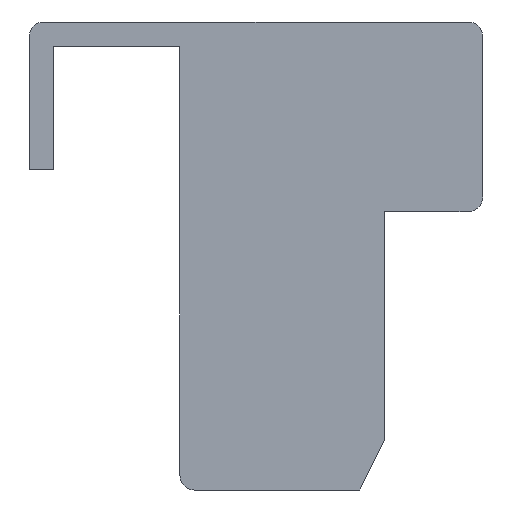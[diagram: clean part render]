
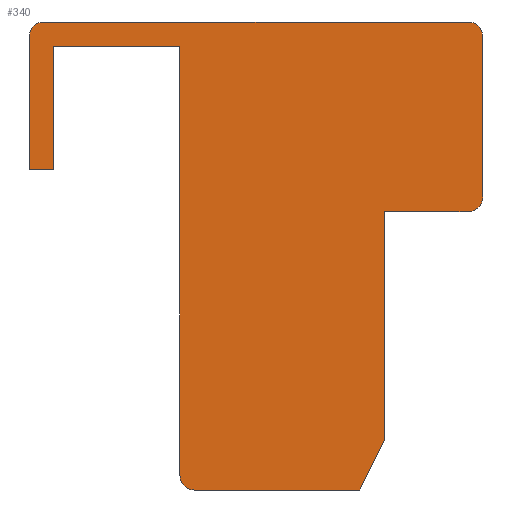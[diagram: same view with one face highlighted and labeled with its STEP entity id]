
A CAD part, left-side view. The second image highlights one B-rep face of the part: STEP entity #340.
In plain terms, the highlighted planar face has unit normal (-1, 0, 0).
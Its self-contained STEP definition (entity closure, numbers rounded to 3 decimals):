
#18=PLANE('',#377);
#34=FACE_OUTER_BOUND('',#53,.T.);
#53=EDGE_LOOP('',(#248,#249,#250,#251,#252,#253,#254,#255,#256,#257,#258,
#259,#260,#261,#262));
#74=LINE('',#518,#112);
#75=LINE('',#521,#113);
#76=LINE('',#523,#114);
#77=LINE('',#525,#115);
#78=LINE('',#529,#116);
#79=LINE('',#533,#117);
#80=LINE('',#537,#118);
#81=LINE('',#539,#119);
#82=LINE('',#541,#120);
#83=LINE('',#543,#121);
#84=LINE('',#544,#122);
#112=VECTOR('',#421,10.);
#113=VECTOR('',#424,10.);
#114=VECTOR('',#425,10.);
#115=VECTOR('',#426,10.);
#116=VECTOR('',#429,10.);
#117=VECTOR('',#432,10.);
#118=VECTOR('',#435,10.);
#119=VECTOR('',#436,10.);
#120=VECTOR('',#437,10.);
#121=VECTOR('',#438,10.);
#122=VECTOR('',#439,10.);
#148=CIRCLE('',#375,3.);
#149=CIRCLE('',#378,3.);
#150=CIRCLE('',#379,3.);
#151=CIRCLE('',#380,3.);
#159=VERTEX_POINT('',#508);
#160=VERTEX_POINT('',#510);
#162=VERTEX_POINT('',#516);
#163=VERTEX_POINT('',#520);
#164=VERTEX_POINT('',#522);
#165=VERTEX_POINT('',#524);
#166=VERTEX_POINT('',#526);
#167=VERTEX_POINT('',#528);
#168=VERTEX_POINT('',#530);
#169=VERTEX_POINT('',#532);
#170=VERTEX_POINT('',#534);
#171=VERTEX_POINT('',#536);
#172=VERTEX_POINT('',#538);
#173=VERTEX_POINT('',#540);
#174=VERTEX_POINT('',#542);
#192=EDGE_CURVE('',#160,#159,#148,.T.);
#196=EDGE_CURVE('',#159,#162,#74,.T.);
#197=EDGE_CURVE('',#162,#163,#75,.T.);
#198=EDGE_CURVE('',#163,#164,#76,.T.);
#199=EDGE_CURVE('',#164,#165,#77,.T.);
#200=EDGE_CURVE('',#165,#166,#149,.T.);
#201=EDGE_CURVE('',#167,#166,#78,.T.);
#202=EDGE_CURVE('',#167,#168,#150,.T.);
#203=EDGE_CURVE('',#169,#168,#79,.T.);
#204=EDGE_CURVE('',#169,#170,#151,.T.);
#205=EDGE_CURVE('',#170,#171,#80,.T.);
#206=EDGE_CURVE('',#171,#172,#81,.T.);
#207=EDGE_CURVE('',#173,#172,#82,.T.);
#208=EDGE_CURVE('',#174,#173,#83,.T.);
#209=EDGE_CURVE('',#174,#160,#84,.T.);
#248=ORIENTED_EDGE('',*,*,#192,.T.);
#249=ORIENTED_EDGE('',*,*,#196,.T.);
#250=ORIENTED_EDGE('',*,*,#197,.T.);
#251=ORIENTED_EDGE('',*,*,#198,.T.);
#252=ORIENTED_EDGE('',*,*,#199,.T.);
#253=ORIENTED_EDGE('',*,*,#200,.T.);
#254=ORIENTED_EDGE('',*,*,#201,.F.);
#255=ORIENTED_EDGE('',*,*,#202,.T.);
#256=ORIENTED_EDGE('',*,*,#203,.F.);
#257=ORIENTED_EDGE('',*,*,#204,.T.);
#258=ORIENTED_EDGE('',*,*,#205,.T.);
#259=ORIENTED_EDGE('',*,*,#206,.T.);
#260=ORIENTED_EDGE('',*,*,#207,.F.);
#261=ORIENTED_EDGE('',*,*,#208,.F.);
#262=ORIENTED_EDGE('',*,*,#209,.T.);
#340=ADVANCED_FACE('',(#34),#18,.F.);
#375=AXIS2_PLACEMENT_3D('',#511,#414,#415);
#377=AXIS2_PLACEMENT_3D('',#519,#422,#423);
#378=AXIS2_PLACEMENT_3D('',#527,#427,#428);
#379=AXIS2_PLACEMENT_3D('',#531,#430,#431);
#380=AXIS2_PLACEMENT_3D('',#535,#433,#434);
#414=DIRECTION('center_axis',(-1.,0.,0.));
#415=DIRECTION('ref_axis',(0.,0.707,-0.707));
#421=DIRECTION('',(0.,-1.,0.));
#422=DIRECTION('center_axis',(1.,0.,0.));
#423=DIRECTION('ref_axis',(0.,0.,1.));
#424=DIRECTION('',(0.,-0.447,0.894));
#425=DIRECTION('',(0.,0.,1.));
#426=DIRECTION('',(0.,-1.,0.));
#427=DIRECTION('center_axis',(-1.,0.,0.));
#428=DIRECTION('ref_axis',(0.,-0.707,-0.707));
#429=DIRECTION('',(0.,0.,-1.));
#430=DIRECTION('center_axis',(-1.,0.,0.));
#431=DIRECTION('ref_axis',(0.,-0.707,0.707));
#432=DIRECTION('',(0.,-1.,0.));
#433=DIRECTION('center_axis',(-1.,0.,0.));
#434=DIRECTION('ref_axis',(0.,0.707,0.707));
#435=DIRECTION('',(0.,0.,-1.));
#436=DIRECTION('',(0.,-1.,0.));
#437=DIRECTION('',(0.,0.,-1.));
#438=DIRECTION('',(0.,1.,0.));
#439=DIRECTION('',(0.,0.,-1.));
#508=CARTESIAN_POINT('',(262.502,676.366,1232.5));
#510=CARTESIAN_POINT('',(262.502,679.366,1235.5));
#511=CARTESIAN_POINT('Origin',(262.502,676.366,1235.5));
#516=CARTESIAN_POINT('',(262.502,642.866,1232.5));
#518=CARTESIAN_POINT('',(262.502,679.366,1232.5));
#519=CARTESIAN_POINT('Origin',(262.502,679.366,1232.5));
#520=CARTESIAN_POINT('',(262.502,637.866,1242.5));
#521=CARTESIAN_POINT('',(262.502,645.266,1227.7));
#522=CARTESIAN_POINT('',(262.502,637.866,1289.));
#523=CARTESIAN_POINT('',(262.502,637.866,1322.5));
#524=CARTESIAN_POINT('',(262.502,620.866,1289.));
#525=CARTESIAN_POINT('',(262.502,679.366,1289.));
#526=CARTESIAN_POINT('',(262.502,617.866,1292.));
#527=CARTESIAN_POINT('Origin',(262.502,620.866,1292.));
#528=CARTESIAN_POINT('',(262.502,617.866,1324.5));
#529=CARTESIAN_POINT('',(262.502,617.866,1322.5));
#530=CARTESIAN_POINT('',(262.502,620.866,1327.5));
#531=CARTESIAN_POINT('Origin',(262.502,620.866,1324.5));
#532=CARTESIAN_POINT('',(262.502,706.966,1327.5));
#533=CARTESIAN_POINT('',(262.502,679.366,1327.5));
#534=CARTESIAN_POINT('',(262.502,709.966,1324.5));
#535=CARTESIAN_POINT('Origin',(262.502,706.966,1324.5));
#536=CARTESIAN_POINT('',(262.502,709.966,1297.5));
#537=CARTESIAN_POINT('',(262.502,709.966,1327.5));
#538=CARTESIAN_POINT('',(262.502,704.966,1297.5));
#539=CARTESIAN_POINT('',(262.502,704.966,1297.5));
#540=CARTESIAN_POINT('',(262.502,704.966,1322.5));
#541=CARTESIAN_POINT('',(262.502,704.966,1322.5));
#542=CARTESIAN_POINT('',(262.502,679.366,1322.5));
#543=CARTESIAN_POINT('',(262.502,679.366,1322.5));
#544=CARTESIAN_POINT('',(262.502,679.366,1322.5));
